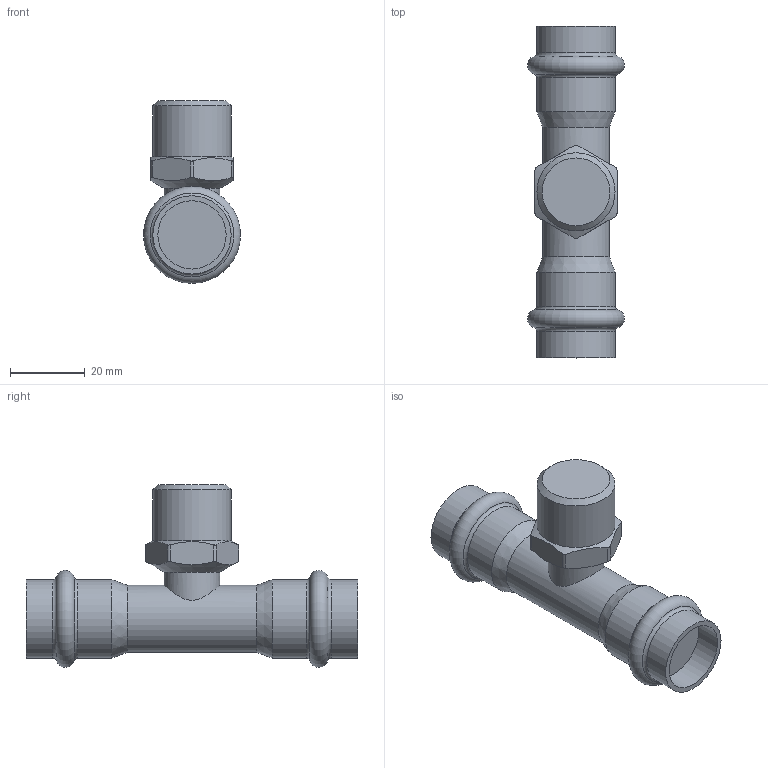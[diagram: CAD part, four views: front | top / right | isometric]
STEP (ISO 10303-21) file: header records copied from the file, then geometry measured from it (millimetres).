
FILE_DESCRIPTION(('STEP AP203'), '1');
FILE_NAME('VTi.933.I.180418', '', ('UNSPECIFIED'), ('UNSPECIFIED'), 'C3D Converter', 'C3D Toolkit', '');
FILE_SCHEMA(('CONFIG_CONTROL_DESIGN'));
Length unit declared in the file: millimetre
Bounding box: 25.99 x 89 x 49 mm (x, y, z)
Volume: 34053.9 mm3; surface area: 9620.7 mm2
Topology: 1 solids, 1 shells, 37 faces, 84 edges, 51 vertices
Faces by surface type: cylinder 15, plane 11, torus 6, cone 5
Full cylindrical faces by diameter (mm): 15 x1, 18 x1, 18.3 x2, 20.955 x1, 21 x4
Entity records: 1969 total; most frequent: CARTESIAN_POINT 1224, DIRECTION 132, ORIENTED_EDGE 126, EDGE_CURVE 63, AXIS2_PLACEMENT_3D 60, EDGE_LOOP 60, VERTEX_POINT 51, ADVANCED_FACE 37
